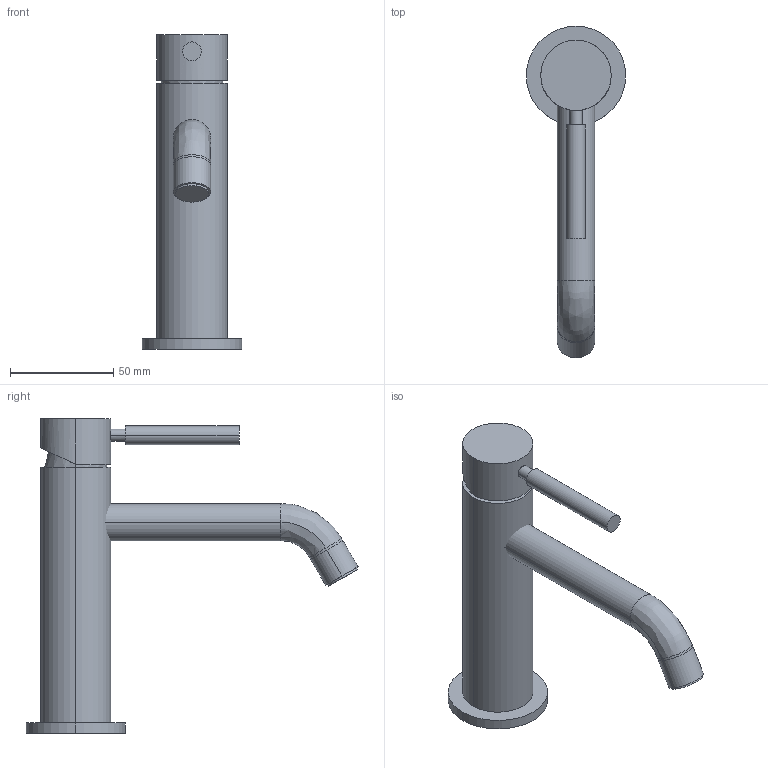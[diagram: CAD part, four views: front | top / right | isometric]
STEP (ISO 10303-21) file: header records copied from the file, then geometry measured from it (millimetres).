
FILE_DESCRIPTION(('FreeCAD Model'),'2;1');
FILE_NAME('Open CASCADE Shape Model','2024-07-23T14:20:48',('Author'),( ''),'Open CASCADE STEP processor 7.6','FreeCAD','Unknown');
FILE_SCHEMA(('AUTOMOTIVE_DESIGN { 1 0 10303 214 1 1 1 1 }'));
Length unit declared in the file: millimetre
Products named in the file (8): TopLevelAssembly; Wyciąganie001; Wyciąganie002; Wyciąganie003; Połączona geometria bryłowa002; Połączona geometria bryłowa; Połączona geometria bryłowa001; Połączona geometria bryłowa003
Assembly tree (7 placements, depth 3):
  TopLevelAssembly
    Wyciąganie001
    Wyciąganie002
    Wyciąganie003
    Połączona geometria bryłowa002
      Połączona geometria bryłowa
      Połączona geometria bryłowa001
    Połączona geometria bryłowa003
Bounding box: 48 x 160.42 x 152 mm (x, y, z)
Volume: 188434.9 mm3; surface area: 35137.4 mm2
Topology: 6 solids, 6 shells, 36 faces, 62 edges, 37 vertices
Faces by surface type: cylinder 18, plane 14, bspline 4
Entity records: 1128 total; most frequent: CARTESIAN_POINT 251, DIRECTION 176, ORIENTED_EDGE 120, AXIS2_PLACEMENT_3D 78, EDGE_CURVE 60, FACE_BOUND 37, EDGE_LOOP 37, VERTEX_POINT 37
